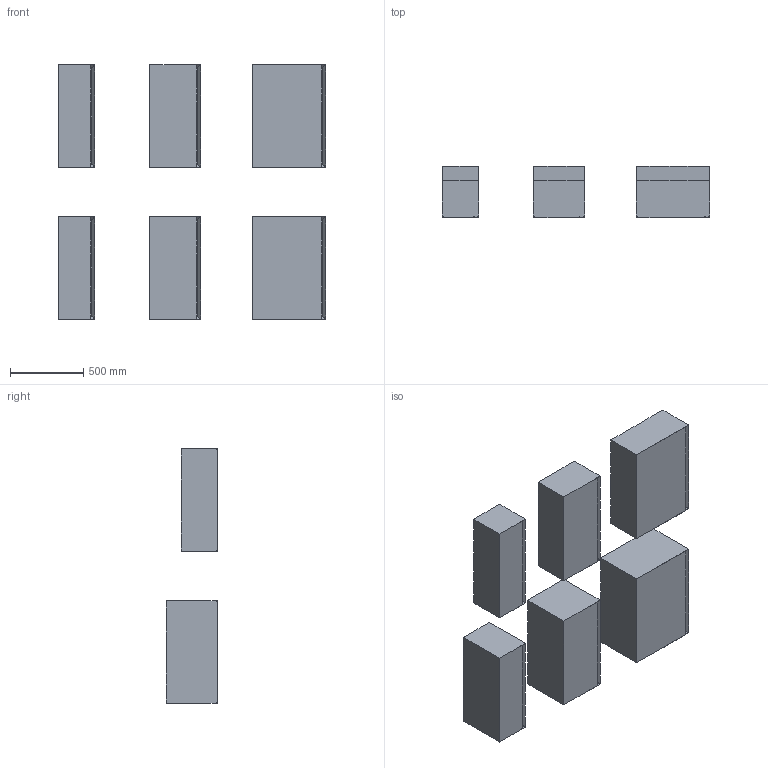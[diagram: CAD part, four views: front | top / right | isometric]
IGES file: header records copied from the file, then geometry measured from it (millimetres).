
Global section: file name: \\Archi-NAS\Comune\X GIOVANNI\MOBILI\EVOLINE\EVOLINE_TOTEM h700.igs; native system: Rhinoceros ( Feb 23 2021 ); preprocessor: Trout Lake IGES 012 Feb 23 2021; date: 230607.150723; units: millimetre
Bounding box: 1825.35 x 350 x 1737.5 mm (x, y, z)
Surface area: 15384643.6 mm2 (no closed solid volume)
Topology: 0 solids, 0 shells, 296 faces, 4424 edges, 4424 vertices
Faces by surface type: bspline 296
